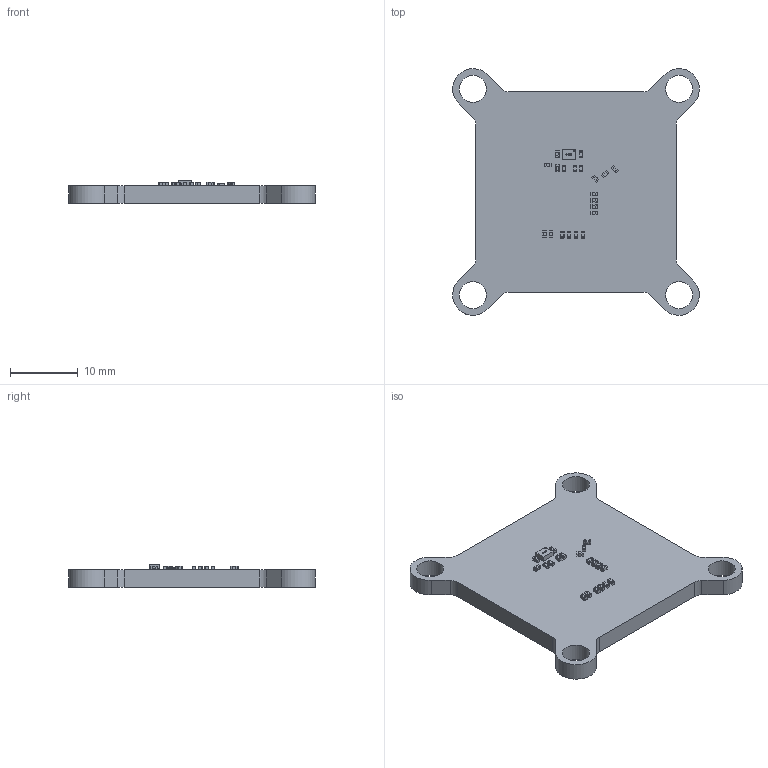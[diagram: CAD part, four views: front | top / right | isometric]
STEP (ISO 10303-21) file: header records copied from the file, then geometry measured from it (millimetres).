
FILE_DESCRIPTION(('Designed by EasyEDA Pro'),'2;1');
FILE_NAME('Open CASCADE Shape Model','2023-11-18T14:33:41',('Author'),( 'Open CASCADE'),'Open CASCADE STEP processor 7.6','Open CASCADE 7.6' ,'Unknown');
FILE_SCHEMA(('AUTOMOTIVE_DESIGN { 1 0 10303 214 1 1 1 1 }'));
Length unit declared in the file: millimetre
Products named in the file (29): PCBModel; COMPOUND; X1; osc-smd_4p-l2.0-w1.6-bl; SOLID; C8; c0402-nsk; C5; C6; C3; C10; C11; C9; C4; C13; C12; C14; C15; C16; C17; C1; C2; C7; R3; r0402-nsk_2; R1; R2
Assembly tree (46 placements, depth 4):
  PCBModel
    COMPOUND
    X1
      osc-smd_4p-l2.0-w1.6-bl
        SOLID
    C8
      c0402-nsk
        SOLID
    C5
      c0402-nsk
        SOLID
    C6
      c0402-nsk
        SOLID
    C3
      c0402-nsk
        SOLID
    C10
      c0402-nsk
        SOLID
    C11
      c0402-nsk
        SOLID
    C9
      c0402-nsk
        SOLID
    C4
      c0402-nsk
        SOLID
    C13
      c0402-nsk
        SOLID
    C12
      c0402-nsk
        SOLID
    C14
      c0402-nsk
        SOLID
    C15
      c0402-nsk
        SOLID
    C16
      c0402-nsk
        SOLID
    C17
      c0402-nsk
        SOLID
    C1
      c0402-nsk
        SOLID
    C2
      c0402-nsk
        SOLID
    C7
      c0402-nsk
        SOLID
    R3
      r0402-nsk_2
        COMPOUND
    R1
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Bounding box: 36.47 x 36.47 x 3.39 mm (x, y, z)
Volume: 2468 mm3; surface area: 2466.9 mm2
Topology: 28 solids, 28 shells, 7464 faces, 19933 edges, 12922 vertices
Faces by surface type: plane 4212, bspline 2334, cylinder 782, sphere 136
Full cylindrical faces by diameter (mm): 4 x4
Entity records: 47422 total; most frequent: CARTESIAN_POINT 13226, ORIENTED_EDGE 5854, DIRECTION 3853, EDGE_CURVE 2927, LINE 2035, VECTOR 2035, VERTEX_POINT 1934, FACE_BOUND 1171
